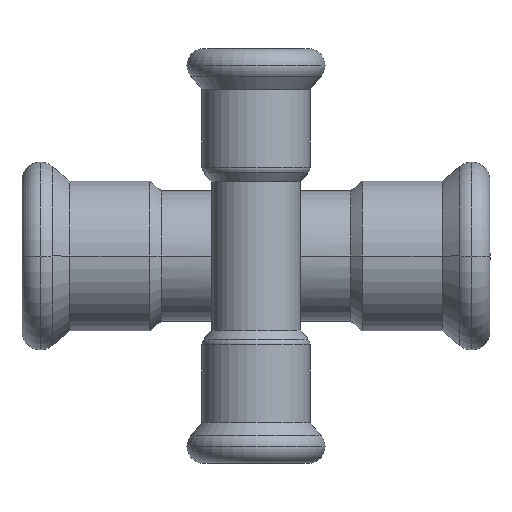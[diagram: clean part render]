
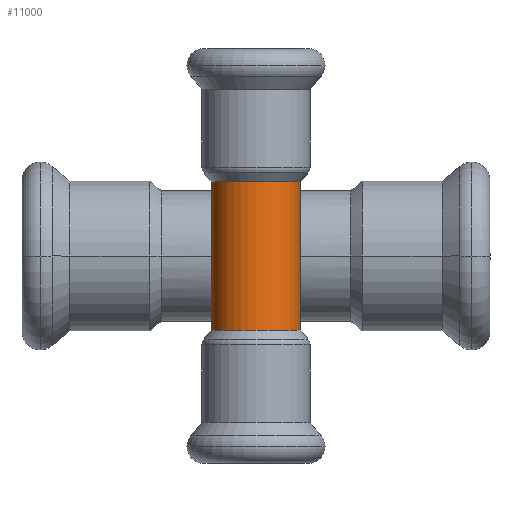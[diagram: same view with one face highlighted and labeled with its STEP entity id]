
A CAD part, left-side view. The second image highlights one B-rep face of the part: STEP entity #11000.
In plain terms, the highlighted cylindrical face has radius 7.5 mm (diameter 15 mm), a partial arc.
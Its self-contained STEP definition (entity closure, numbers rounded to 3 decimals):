
#2880=CARTESIAN_POINT('',(-88.693,26.409,0.));
#2890=VERTEX_POINT('',#2880);
#6210=CARTESIAN_POINT('',(-103.693,38.909,
0.));
#6220=VERTEX_POINT('',#6210);
#6310=CARTESIAN_POINT('',(-88.693,38.909,0.));
#6320=VERTEX_POINT('',#6310);
#6350=CARTESIAN_POINT('',(-96.193,38.909,0.));
#6360=DIRECTION('',(0.,-1.,0.));
#6370=DIRECTION('',(1.,0.,0.));
#6380=AXIS2_PLACEMENT_3D('',#6350,#6360,#6370);
#6390=CIRCLE('',#6380,7.5);
#6400=EDGE_CURVE('',#6320,#6220,#6390,.T.);
#10630=CARTESIAN_POINT('',(-96.193,13.909,0.));
#10640=DIRECTION('',(0.,-1.,0.));
#10650=DIRECTION('',(1.,0.,0.));
#10660=AXIS2_PLACEMENT_3D('',#10630,#10640,#10650);
#10670=CYLINDRICAL_SURFACE('',#10660,7.5);
#10680=CARTESIAN_POINT('',(-88.693,13.909,0.));
#10690=DIRECTION('',(0.,-1.,0.));
#10700=VECTOR('',#10690,1.);
#10710=LINE('',#10680,#10700);
#10720=EDGE_CURVE('',#6320,#2890,#10710,.T.);
#10730=ORIENTED_EDGE('',*,*,#10720,.F.);
#10740=CARTESIAN_POINT('',(-88.693,13.909,0.));
#10750=VERTEX_POINT('',#10740);
#10760=EDGE_CURVE('',#2890,#10750,#10710,.T.);
#10770=ORIENTED_EDGE('',*,*,#10760,.F.);
#10780=CARTESIAN_POINT('',(-96.193,13.909,0.));
#10790=DIRECTION('',(0.,-1.,0.));
#10800=DIRECTION('',(1.,0.,0.));
#10810=AXIS2_PLACEMENT_3D('',#10780,#10790,#10800);
#10820=CIRCLE('',#10810,7.5);
#10830=CARTESIAN_POINT('',(-103.693,13.909,
0.));
#10840=VERTEX_POINT('',#10830);
#10850=EDGE_CURVE('',#10750,#10840,#10820,.T.);
#10860=ORIENTED_EDGE('',*,*,#10850,.F.);
#10870=CARTESIAN_POINT('',(-103.693,13.909,
0.));
#10880=DIRECTION('',(0.,-1.,0.));
#10890=VECTOR('',#10880,1.);
#10900=LINE('',#10870,#10890);
#10910=CARTESIAN_POINT('',(-103.693,26.409,
0.));
#10920=VERTEX_POINT('',#10910);
#10930=EDGE_CURVE('',#10920,#10840,#10900,.T.);
#10940=ORIENTED_EDGE('',*,*,#10930,.T.);
#10950=EDGE_CURVE('',#6220,#10920,#10900,.T.);
#10960=ORIENTED_EDGE('',*,*,#10950,.T.);
#10970=ORIENTED_EDGE('',*,*,#6400,.T.);
#10980=EDGE_LOOP('',(#10970,#10960,#10940,#10860,#10770,#10730));
#10990=FACE_OUTER_BOUND('',#10980,.T.);
#11000=ADVANCED_FACE('',(#10990),#10670,.T.);
